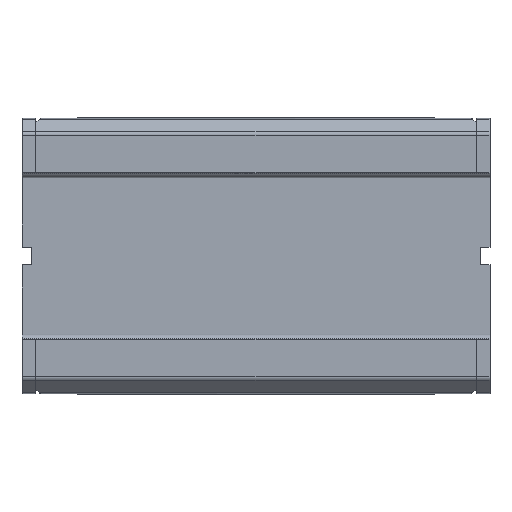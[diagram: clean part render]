
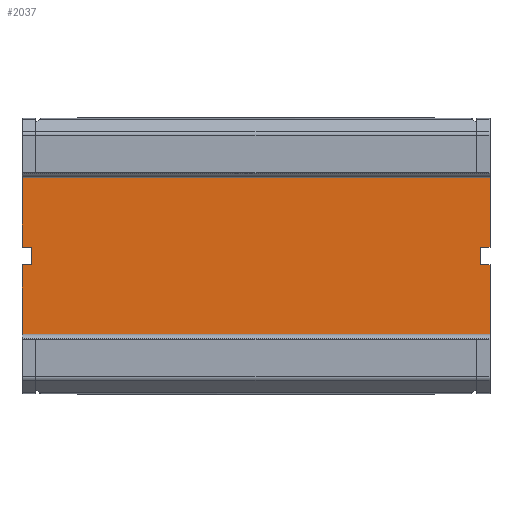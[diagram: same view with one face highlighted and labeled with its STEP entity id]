
A CAD part, front view. The second image highlights one B-rep face of the part: STEP entity #2037.
In plain terms, the highlighted planar face has unit normal (0, -1, 0).
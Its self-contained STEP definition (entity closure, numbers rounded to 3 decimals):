
#643=ORIENTED_EDGE('',*,*,#822,.T.);
#644=ORIENTED_EDGE('',*,*,#818,.F.);
#645=ORIENTED_EDGE('',*,*,#717,.F.);
#646=ORIENTED_EDGE('',*,*,#967,.F.);
#647=ORIENTED_EDGE('',*,*,#766,.T.);
#648=ORIENTED_EDGE('',*,*,#833,.T.);
#649=ORIENTED_EDGE('',*,*,#828,.F.);
#650=ORIENTED_EDGE('',*,*,#835,.T.);
#651=ORIENTED_EDGE('',*,*,#747,.T.);
#652=ORIENTED_EDGE('',*,*,#968,.T.);
#653=ORIENTED_EDGE('',*,*,#705,.F.);
#654=ORIENTED_EDGE('',*,*,#816,.F.);
#705=EDGE_CURVE('',#987,#988,#1176,.T.);
#717=EDGE_CURVE('',#999,#1000,#1182,.T.);
#747=EDGE_CURVE('',#1027,#1026,#1206,.T.);
#766=EDGE_CURVE('',#1045,#1044,#1218,.T.);
#816=EDGE_CURVE('',#1086,#987,#1253,.T.);
#818=EDGE_CURVE('',#1000,#1087,#1255,.F.);
#822=EDGE_CURVE('',#1086,#1087,#1257,.T.);
#828=EDGE_CURVE('',#1094,#1095,#1261,.T.);
#833=EDGE_CURVE('',#1044,#1095,#1265,.F.);
#835=EDGE_CURVE('',#1094,#1027,#1267,.T.);
#967=EDGE_CURVE('',#1045,#999,#1375,.T.);
#968=EDGE_CURVE('',#1026,#988,#1376,.T.);
#987=VERTEX_POINT('',#2840);
#988=VERTEX_POINT('',#2842);
#999=VERTEX_POINT('',#2865);
#1000=VERTEX_POINT('',#2867);
#1026=VERTEX_POINT('',#2927);
#1027=VERTEX_POINT('',#2929);
#1044=VERTEX_POINT('',#2965);
#1045=VERTEX_POINT('',#2967);
#1086=VERTEX_POINT('',#3064);
#1087=VERTEX_POINT('',#3069);
#1094=VERTEX_POINT('',#3087);
#1095=VERTEX_POINT('',#3089);
#1176=LINE('',#2841,#1392);
#1182=LINE('',#2866,#1398);
#1206=LINE('',#2928,#1422);
#1218=LINE('',#2966,#1434);
#1253=LINE('',#3065,#1469);
#1255=LINE('',#3068,#1471);
#1257=LINE('',#3076,#1473);
#1261=LINE('',#3088,#1477);
#1265=LINE('',#3098,#1481);
#1267=LINE('',#3101,#1483);
#1375=LINE('',#3385,#1591);
#1376=LINE('',#3386,#1592);
#1392=VECTOR('',#2259,1000.);
#1398=VECTOR('',#2279,1000.);
#1422=VECTOR('',#2325,1000.);
#1434=VECTOR('',#2353,1000.);
#1469=VECTOR('',#2432,1000.);
#1471=VECTOR('',#2436,1000.);
#1473=VECTOR('',#2444,1000.);
#1477=VECTOR('',#2454,1000.);
#1481=VECTOR('',#2462,1000.);
#1483=VECTOR('',#2466,1000.);
#1591=VECTOR('',#2786,1000.);
#1592=VECTOR('',#2787,1000.);
#1718=EDGE_LOOP('',(#643,#644,#645,#646,#647,#648,#649,#650,#651,#652,#653,
#654));
#1850=FACE_BOUND('',#1718,.T.);
#1931=PLANE('',#2230);
#2037=ADVANCED_FACE('',(#1850),#1931,.T.);
#2230=AXIS2_PLACEMENT_3D('',#3384,#2784,#2785);
#2259=DIRECTION('',(0.,0.,1.));
#2279=DIRECTION('',(0.,0.,1.));
#2325=DIRECTION('',(0.,0.,1.));
#2353=DIRECTION('',(0.,0.,1.));
#2432=DIRECTION('',(-1.,0.,0.));
#2436=DIRECTION('',(-1.,0.,0.));
#2444=DIRECTION('',(0.,0.,-1.));
#2454=DIRECTION('',(0.,0.,-1.));
#2462=DIRECTION('',(1.,0.,0.));
#2466=DIRECTION('',(1.,0.,0.));
#2784=DIRECTION('',(0.,-1.,0.));
#2785=DIRECTION('',(0.,0.,-1.));
#2786=DIRECTION('',(-1.,0.,0.));
#2787=DIRECTION('',(-1.,0.,0.));
#2840=CARTESIAN_POINT('',(-25.35,4.6,0.959));
#2841=CARTESIAN_POINT('',(-25.35,4.6,-8.7));
#2842=CARTESIAN_POINT('',(-25.35,4.6,8.7));
#2865=CARTESIAN_POINT('',(-25.35,4.6,-8.7));
#2866=CARTESIAN_POINT('',(-25.35,4.6,-8.7));
#2867=CARTESIAN_POINT('',(-25.35,4.6,-0.959));
#2927=CARTESIAN_POINT('',(25.35,4.6,8.7));
#2928=CARTESIAN_POINT('',(25.35,4.6,-8.7));
#2929=CARTESIAN_POINT('',(25.35,4.6,0.959));
#2965=CARTESIAN_POINT('',(25.35,4.6,-0.959));
#2966=CARTESIAN_POINT('',(25.35,4.6,-8.7));
#2967=CARTESIAN_POINT('',(25.35,4.6,-8.7));
#3064=CARTESIAN_POINT('',(-24.35,4.6,0.959));
#3065=CARTESIAN_POINT('',(-24.35,4.6,0.959));
#3068=CARTESIAN_POINT('',(-24.35,4.6,-0.959));
#3069=CARTESIAN_POINT('',(-24.35,4.6,-0.959));
#3076=CARTESIAN_POINT('',(-24.35,4.6,0.));
#3087=CARTESIAN_POINT('',(24.35,4.6,0.959));
#3088=CARTESIAN_POINT('',(24.35,4.6,0.));
#3089=CARTESIAN_POINT('',(24.35,4.6,-0.959));
#3098=CARTESIAN_POINT('',(24.35,4.6,-0.959));
#3101=CARTESIAN_POINT('',(24.35,4.6,0.959));
#3384=CARTESIAN_POINT('',(25.35,4.6,-8.7));
#3385=CARTESIAN_POINT('',(25.35,4.6,-8.7));
#3386=CARTESIAN_POINT('',(25.35,4.6,8.7));
